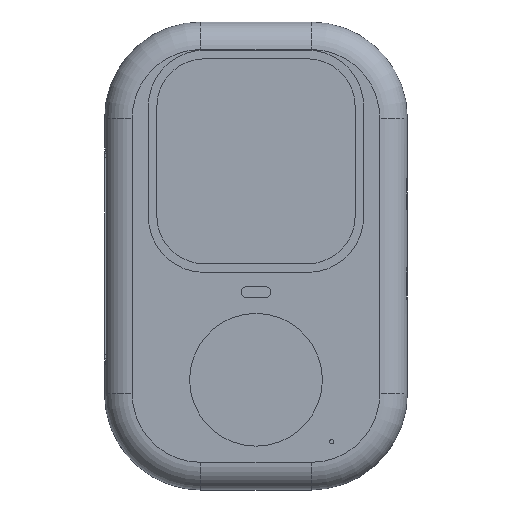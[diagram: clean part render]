
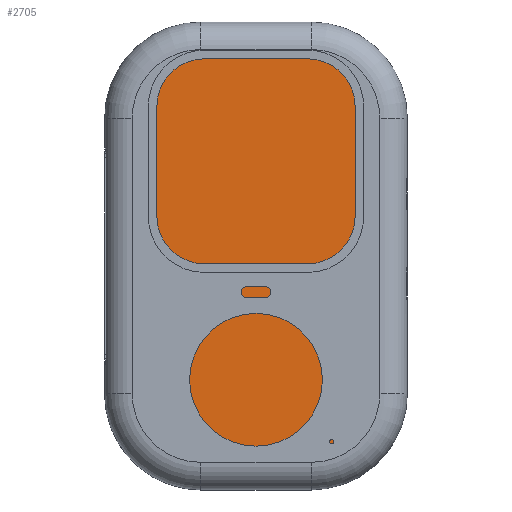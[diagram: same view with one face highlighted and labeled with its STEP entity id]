
A CAD part, top view. The second image highlights one B-rep face of the part: STEP entity #2705.
In plain terms, the highlighted planar face has unit normal (0, 0, 1).
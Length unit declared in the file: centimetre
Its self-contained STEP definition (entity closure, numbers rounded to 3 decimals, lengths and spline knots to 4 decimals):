
#148=FACE_OUTER_BOUND('',#305,.T.);
#305=EDGE_LOOP('',(#1787,#1788,#1789,#1790,#1791,#1792,#1793,#1794));
#472=CIRCLE('',#2878,2.2);
#473=CIRCLE('',#2879,2.2);
#474=CIRCLE('',#2880,2.2);
#475=CIRCLE('',#2881,2.2);
#626=LINE('',#4049,#859);
#627=LINE('',#4053,#860);
#628=LINE('',#4057,#861);
#629=LINE('',#4061,#862);
#859=VECTOR('',#3192,1.);
#860=VECTOR('',#3195,1.);
#861=VECTOR('',#3198,1.);
#862=VECTOR('',#3201,1.);
#1092=VERTEX_POINT('',#4047);
#1093=VERTEX_POINT('',#4048);
#1094=VERTEX_POINT('',#4050);
#1095=VERTEX_POINT('',#4052);
#1096=VERTEX_POINT('',#4054);
#1097=VERTEX_POINT('',#4056);
#1098=VERTEX_POINT('',#4058);
#1099=VERTEX_POINT('',#4060);
#1364=EDGE_CURVE('',#1092,#1093,#626,.T.);
#1365=EDGE_CURVE('',#1093,#1094,#472,.T.);
#1366=EDGE_CURVE('',#1094,#1095,#627,.T.);
#1367=EDGE_CURVE('',#1095,#1096,#473,.T.);
#1368=EDGE_CURVE('',#1096,#1097,#628,.T.);
#1369=EDGE_CURVE('',#1097,#1098,#474,.T.);
#1370=EDGE_CURVE('',#1098,#1099,#629,.T.);
#1371=EDGE_CURVE('',#1099,#1092,#475,.T.);
#1787=ORIENTED_EDGE('',*,*,#1364,.T.);
#1788=ORIENTED_EDGE('',*,*,#1365,.T.);
#1789=ORIENTED_EDGE('',*,*,#1366,.T.);
#1790=ORIENTED_EDGE('',*,*,#1367,.T.);
#1791=ORIENTED_EDGE('',*,*,#1368,.T.);
#1792=ORIENTED_EDGE('',*,*,#1369,.T.);
#1793=ORIENTED_EDGE('',*,*,#1370,.T.);
#1794=ORIENTED_EDGE('',*,*,#1371,.T.);
#2633=PLANE('',#2877);
#2705=ADVANCED_FACE('',(#148),#2633,.T.);
#2877=AXIS2_PLACEMENT_3D('',#4046,#3190,#3191);
#2878=AXIS2_PLACEMENT_3D('',#4051,#3193,#3194);
#2879=AXIS2_PLACEMENT_3D('',#4055,#3196,#3197);
#2880=AXIS2_PLACEMENT_3D('',#4059,#3199,#3200);
#2881=AXIS2_PLACEMENT_3D('',#4062,#3202,#3203);
#3190=DIRECTION('center_axis',(0.,0.,1.));
#3191=DIRECTION('ref_axis',(1.,0.,0.));
#3192=DIRECTION('',(0.,-1.,0.));
#3193=DIRECTION('center_axis',(0.,0.,1.));
#3194=DIRECTION('ref_axis',(-0.707,-0.707,0.));
#3195=DIRECTION('',(1.,0.,0.));
#3196=DIRECTION('center_axis',(0.,0.,1.));
#3197=DIRECTION('ref_axis',(0.707,-0.707,0.));
#3198=DIRECTION('',(0.,1.,0.));
#3199=DIRECTION('center_axis',(0.,0.,1.));
#3200=DIRECTION('ref_axis',(0.707,0.707,0.));
#3201=DIRECTION('',(-1.,0.,0.));
#3202=DIRECTION('center_axis',(0.,0.,1.));
#3203=DIRECTION('ref_axis',(-0.707,0.707,0.));
#4046=CARTESIAN_POINT('Origin',(0.,0.,-1.12));
#4047=CARTESIAN_POINT('',(-3.8,4.,-1.12));
#4048=CARTESIAN_POINT('',(-3.8,-4.,-1.12));
#4049=CARTESIAN_POINT('',(-3.8,3.3,-1.12));
#4050=CARTESIAN_POINT('',(-1.6,-6.2,-1.12));
#4051=CARTESIAN_POINT('Origin',(-1.6,-4.,-1.12));
#4052=CARTESIAN_POINT('',(1.6,-6.2,-1.12));
#4053=CARTESIAN_POINT('',(-2.1,-6.2,-1.12));
#4054=CARTESIAN_POINT('',(3.8,-4.,-1.12));
#4055=CARTESIAN_POINT('Origin',(1.6,-4.,-1.12));
#4056=CARTESIAN_POINT('',(3.8,4.,-1.12));
#4057=CARTESIAN_POINT('',(3.8,-3.3,-1.12));
#4058=CARTESIAN_POINT('',(1.6,6.2,-1.12));
#4059=CARTESIAN_POINT('Origin',(1.6,4.,-1.12));
#4060=CARTESIAN_POINT('',(-1.6,6.2,-1.12));
#4061=CARTESIAN_POINT('',(2.1,6.2,-1.12));
#4062=CARTESIAN_POINT('Origin',(-1.6,4.,-1.12));
